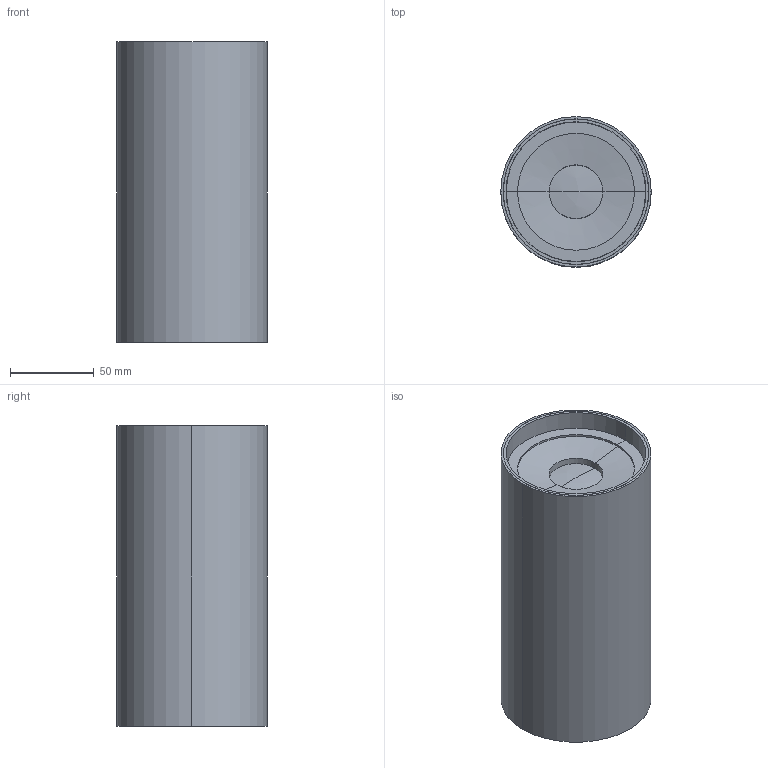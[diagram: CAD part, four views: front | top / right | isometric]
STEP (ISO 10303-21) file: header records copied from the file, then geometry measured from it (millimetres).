
FILE_DESCRIPTION(/* description */ (''),/* implementation_level */ '2;1');
FILE_NAME(/* name */ 'C:\Users\FrancoSartori\Documents\FARO\01_En Proceso\0000_2022\000_PRO\00_FOST\03_Publicación\FOST CEILING90.stp',/* time_stamp */ '2022-04-20T12:34:37+02:00',/* author */ ('FrancoSartori'),/* organization */ (''),/* preprocessor_version */ 'ST-DEVELOPER v19',/* originating_system */ 'AutoCAD Mechanical',/* authorisation */ '');
FILE_SCHEMA (('AUTOMOTIVE_DESIGN { 1 0 10303 214 3 1 1 }'));
Length unit declared in the file: millimetre
Products named in the file (2): Product; FOST CEILING90_ - Lamp-708874-Export
Assembly tree (1 placements, depth 2):
  Product
    FOST CEILING90_ - Lamp-708874-Export
Bounding box: 90 x 90 x 180 mm (x, y, z)
Volume: 285979.1 mm3; surface area: 238561.5 mm2
Topology: 24 solids, 24 shells, 263 faces, 598 edges, 379 vertices
Faces by surface type: plane 159, cylinder 84, cone 16, sphere 2, bspline 2
Entity records: 7456 total; most frequent: DIRECTION 1321, CARTESIAN_POINT 1308, ORIENTED_EDGE 1192, EDGE_CURVE 596, AXIS2_PLACEMENT_3D 462, LINE 397, VECTOR 397, VERTEX_POINT 379
